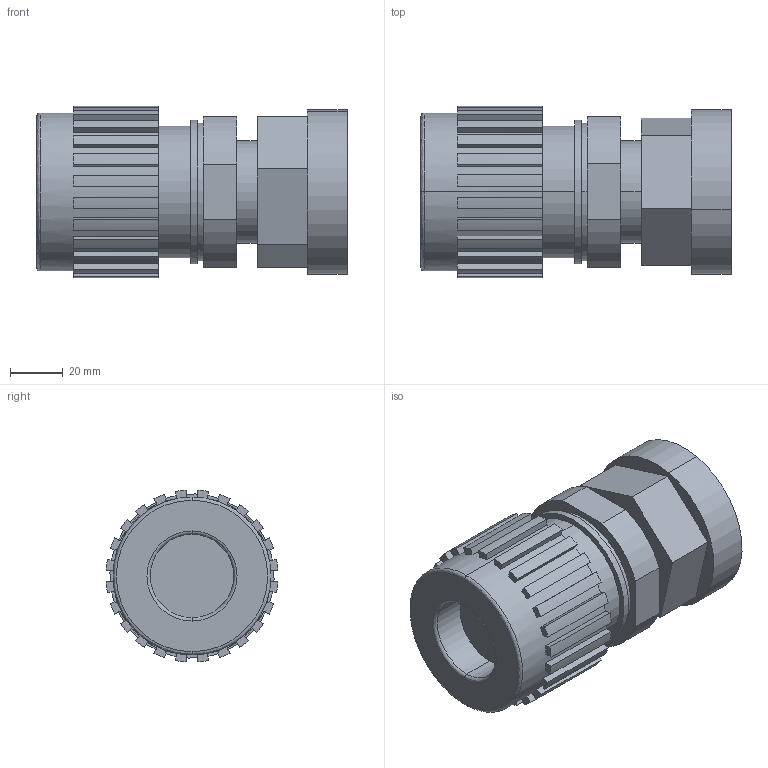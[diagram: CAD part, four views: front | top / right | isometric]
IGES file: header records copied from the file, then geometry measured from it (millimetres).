
Start section: SolidWorks IGES file using analytic representation for surfaces
Global section: file name: S:\Product Visuals\Pumps to be Defeatured\140 fittings\FITTING ASSEMBLIES\DEFEATURED\top-out\20-s-300-top-out.IGS; native system: SolidWorks 2012; preprocessor: SolidWorks 2012; author: rachel.dressel; date: 121226.154501; units: inch
Bounding box: 117.8 x 65.25 x 65.25 mm (x, y, z)
Volume: 296158 mm3; surface area: 39048.5 mm2
Topology: 1 solids, 1 shells, 139 faces, 386 edges, 256 vertices
Faces by surface type: plane 94, revolution 45
